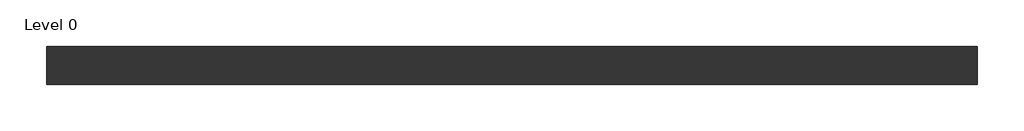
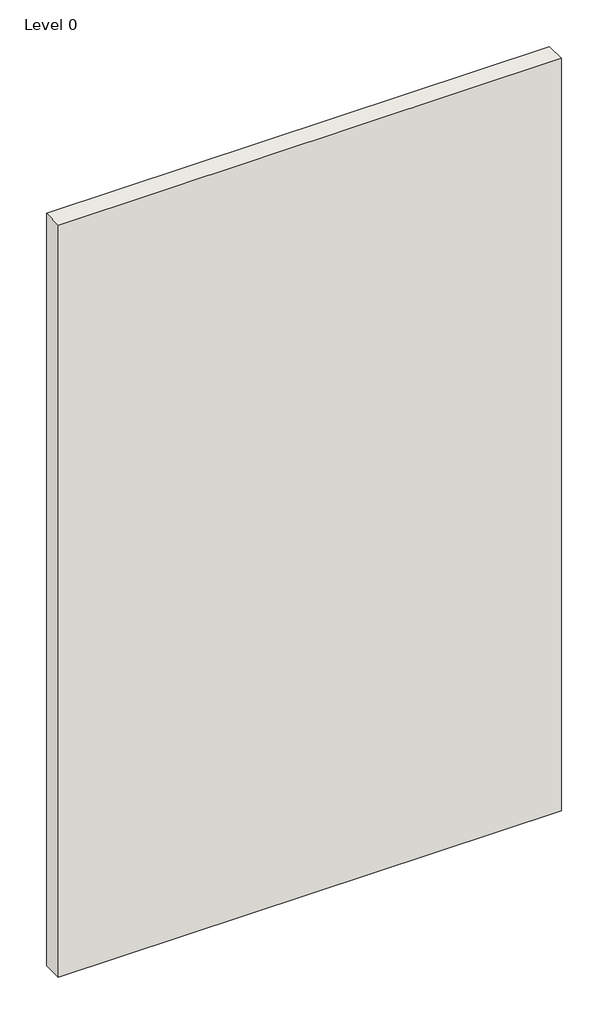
# One storey: 1 wall.
"""IFC4 building model written with IfcOpenShell, lengths in millimetres."""

import ifcopenshell
import ifcopenshell.guid

model = None  # the IFC model being written
_history = None  # IfcOwnerHistory: only IFC2X3 demands one
_inside = {}  # id of a spatial element -> (the spatial element, [elements in it])
_under = {}  # id of a project, library or spatial element -> (it, [spatial elements below it])
_declared = {}  # id of a project -> (the project, [libraries it declares])
_typed = {}  # id of a type object -> (the type object, [elements of that type])
_made_of = {}  # id of a material, layer set ... -> (it, [elements and type objects made of it])


def new_model(schema):
    """Start an empty IFC model of exactly this schema.

    Asked for "IFC4X3", IfcOpenShell would pick the latest addendum, in which some entities
    have other attributes; the version numbers below select the first issue.
    IFC2X3 requires an IfcOwnerHistory on every rooted entity: one is made here for all.
    """
    global model, _history
    if schema == "IFC4X3":
        model = ifcopenshell.file(schema_version=(4, 3, 0, 0))
    else:
        model = ifcopenshell.file(schema=schema)
    _inside.clear()
    _under.clear()
    _declared.clear()
    _typed.clear()
    _made_of.clear()
    _history = None
    if model.schema == "IFC2X3":
        org = make("IfcOrganization", Name="unknown")
        user = make(
            "IfcPersonAndOrganization",
            ThePerson=make("IfcPerson", FamilyName="unknown"),
            TheOrganization=org,
        )
        app = make(
            "IfcApplication",
            ApplicationDeveloper=org,
            Version="unknown",
            ApplicationFullName="unknown",
            ApplicationIdentifier="unknown",
        )
        _history = make(
            "IfcOwnerHistory",
            OwningUser=user,
            OwningApplication=app,
            ChangeAction="ADDED",
            CreationDate=0,
        )
    return model


def make(cls, **values):
    """One entity of the class cls with the attributes given. An attribute that is None is left unset."""
    return model.create_entity(
        cls, **{name: value for name, value in values.items() if value is not None}
    )


def rooted(cls, **values):
    """An entity with a GlobalId (a new one), such as an element, a storey or a relation."""
    return make(cls, GlobalId=ifcopenshell.guid.new(), OwnerHistory=_history, **values)


def si_unit(unit_type, name, prefix=None):
    """IfcSIUnit, for example si_unit("LENGTHUNIT", "METRE", prefix="MILLI")."""
    return make("IfcSIUnit", UnitType=unit_type, Prefix=prefix, Name=name)


def assignment(units):
    """IfcUnitAssignment: the units of a project."""
    return None if units is None else make("IfcUnitAssignment", Units=units)


def point(xyz):
    """IfcCartesianPoint."""
    return None if xyz is None else make("IfcCartesianPoint", Coordinates=xyz)


def direction(xyz):
    """IfcDirection."""
    return None if xyz is None else make("IfcDirection", DirectionRatios=xyz)


def frame(location, z_axis=None, x_axis=None):
    """IfcAxis2Placement3D, a coordinate frame: its origin and axes. An axis left out is left unset."""
    return make(
        "IfcAxis2Placement3D",
        Location=point(location),
        Axis=direction(z_axis),
        RefDirection=direction(x_axis),
    )


def origin():
    """The frame at (0, 0, 0) with its axes left unset."""
    return frame((0.0, 0.0, 0.0))


def origin_with_axes():
    """The frame at (0, 0, 0) with the z axis (0, 0, 1) and the x axis (1, 0, 0) written out."""
    return frame((0.0, 0.0, 0.0), z_axis=(0.0, 0.0, 1.0), x_axis=(1.0, 0.0, 0.0))


def place(relative_to, where):
    """IfcLocalPlacement: puts the frame where relative to a parent placement (None: the world)."""
    return make(
        "IfcLocalPlacement", PlacementRelTo=relative_to, RelativePlacement=where
    )


def context(
    kind, dimensions, precision=None, world=None, true_north=None, identifier=None
):
    """IfcGeometricRepresentationContext, for example the 3D "Model" context."""
    return make(
        "IfcGeometricRepresentationContext",
        ContextIdentifier=identifier,
        ContextType=kind,
        CoordinateSpaceDimension=dimensions,
        Precision=precision,
        WorldCoordinateSystem=world,
        TrueNorth=true_north,
    )


def project(units=None, contexts=None):
    """IfcProject with its units and contexts."""
    return rooted(
        "IfcProject",
        Name="project",
        RepresentationContexts=contexts,
        UnitsInContext=assignment(units),
    )


def spatial(cls, under=None, at=None, **own):
    """A site, building, storey or space (cls), placed at a placement, below another one or the project."""
    s = rooted(cls, ObjectPlacement=at, **own)
    if under is not None:
        _under.setdefault(under.id(), (under, []))[1].append(s)
    return s


def polyline(points):
    """IfcPolyline through the points."""
    return make("IfcPolyline", Points=[point(p) for p in points])


def outline(outer, holes=None, kind="AREA"):
    """IfcArbitraryClosedProfileDef: a profile drawn as a closed curve; with holes, ...WithVoids."""
    if holes is None:
        return make("IfcArbitraryClosedProfileDef", ProfileType=kind, OuterCurve=outer)
    return make(
        "IfcArbitraryProfileDefWithVoids",
        ProfileType=kind,
        OuterCurve=outer,
        InnerCurves=holes,
    )


def extrude(swept, where, along, depth):
    """IfcExtrudedAreaSolid: the profile swept, set in the frame where, extruded along a direction by depth."""
    return make(
        "IfcExtrudedAreaSolid",
        SweptArea=swept,
        Position=where,
        ExtrudedDirection=direction(along),
        Depth=depth,
    )


def shape(context_of_items, identifier, shape_type, items):
    """IfcShapeRepresentation: the items that make up one representation, for example the "Body"."""
    return make(
        "IfcShapeRepresentation",
        ContextOfItems=context_of_items,
        RepresentationIdentifier=identifier,
        RepresentationType=shape_type,
        Items=items,
    )


def made_of(thing, what):
    """Note that an element or type object is made of a material, layer set ...; save() writes the relation."""
    if what is not None:
        _made_of.setdefault(what.id(), (what, []))[1].append(thing)
    return thing


def element(
    cls,
    number,
    at=None,
    inside=None,
    cuts=None,
    type_object=None,
    material=None,
    context=None,
    identifier="Body",
    shape_type=None,
    held_by="IfcProductDefinitionShape",
    body=None,
    shapes=None,
    **own,
):
    """One element of the class cls, such as IfcWall. Its Tag is "e" and its number.

    at: its placement. inside: the storey or other place that contains it. cuts: it is an
    opening in that element (IfcRelVoidsElement). A single representation is given by context,
    identifier, shape_type and body (its items); several are given by shapes. held_by: the class
    of the entity that holds the representations. save() writes the other relations.
    """
    e = rooted(cls, Tag="e%d" % number, ObjectPlacement=at, **own)
    if body is not None:
        shapes = [shape(context, identifier, shape_type, body)]
    if shapes is not None:
        e.Representation = make(held_by, Representations=shapes)
    if inside is not None:
        _inside.setdefault(inside.id(), (inside, []))[1].append(e)
    if cuts is not None:
        rooted(
            "IfcRelVoidsElement", RelatingBuildingElement=cuts, RelatedOpeningElement=e
        )
    if type_object is not None:
        _typed.setdefault(type_object.id(), (type_object, []))[1].append(e)
    return made_of(e, material)


def aggregate(whole, parts):
    """IfcRelAggregates: a whole, such as a stair, and the parts it consists of."""
    return rooted("IfcRelAggregates", RelatingObject=whole, RelatedObjects=parts)


def save(model, path):
    """Write the relations noted so far, then the file.

    IfcRelAggregates (storeys below a building ...), IfcRelContainedInSpatialStructure (elements
    in a storey), IfcRelDefinesByType, IfcRelAssociatesMaterial and IfcRelDeclares: one each for
    every whole, place, type object, material and project.
    """
    for whole, parts in _under.values():
        aggregate(whole, parts)
    for where, things in _inside.values():
        rooted(
            "IfcRelContainedInSpatialStructure",
            RelatedElements=things,
            RelatingStructure=where,
        )
    for kind, things in _typed.values():
        rooted("IfcRelDefinesByType", RelatedObjects=things, RelatingType=kind)
    for what, things in _made_of.values():
        rooted("IfcRelAssociatesMaterial", RelatedObjects=things, RelatingMaterial=what)
    for by, libraries in _declared.values():
        rooted("IfcRelDeclares", RelatingContext=by, RelatedDefinitions=libraries)
    model.write(path)


model = new_model("IFC4")

# Units and contexts
model_context = context("Model", 3, world=origin())
ifc_project = project(units=[si_unit("LENGTHUNIT", "METRE", prefix="MILLI")], contexts=[model_context])

# Site, building, storey
site = spatial("IfcSite", under=ifc_project)
building = spatial("IfcBuilding", under=site)
storey = spatial("IfcBuildingStorey", under=building, Name="Level 0", Elevation=0.0)

# Wall
placement = place(None, origin())
element("IfcWall", 1, ObjectType="X606A005 - GypWall Extreme", at=placement, inside=storey, context=model_context, shape_type="SweptSolid", body=[
    extrude(outline(polyline([(1155.997948, 491.7669953), (-1944.002052, 491.7669953), (-1944.002052, 618.7669953), (1155.997948, 618.7669953), (1155.997948, 491.7669953)])), origin_with_axes(), (0.0, 0.0, 1.0), 4900.0),
])

save(model, "model.ifc")
